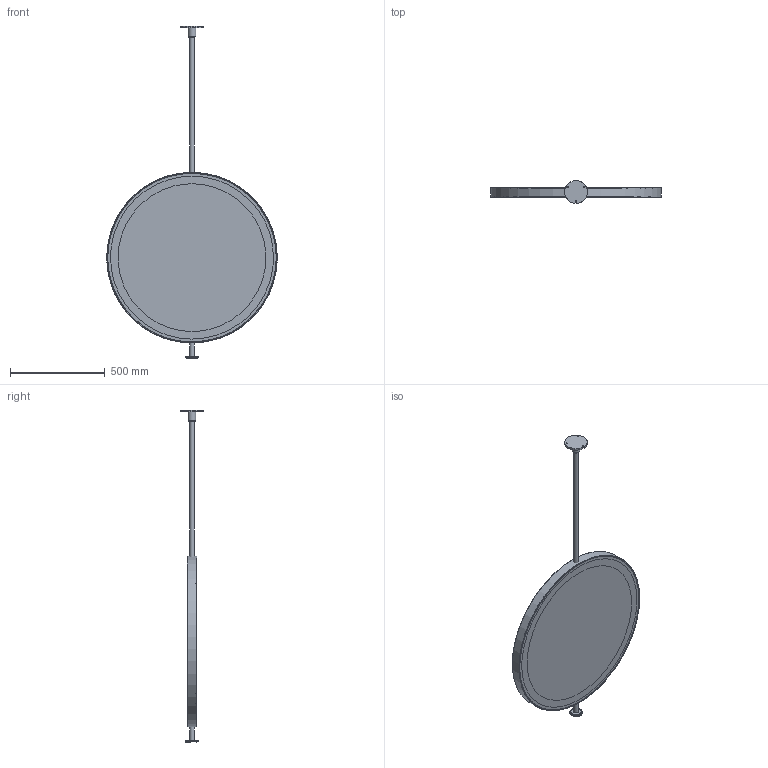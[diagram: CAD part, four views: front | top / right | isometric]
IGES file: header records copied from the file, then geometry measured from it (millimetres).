
Global section: file name: \\Archi-NAS\Comune\X GIOVANNI\SCHEDE PRODOTTO\SPECCHI\MIRR FRAME\MOMA DESIGN_SPECCHI_MIRR FRAME SABLE.igs; native system: Rhinoceros ( Jan 17 2018 ); preprocessor: Trout Lake IGES 012 Jan 17 2018; date: 230620.084200; units: millimetre
Bounding box: 900 x 120 x 1753.03 mm (x, y, z)
Surface area: 3094785.9 mm2 (no closed solid volume)
Topology: 0 solids, 0 shells, 41 faces, 261 edges, 242 vertices
Faces by surface type: bspline 41
